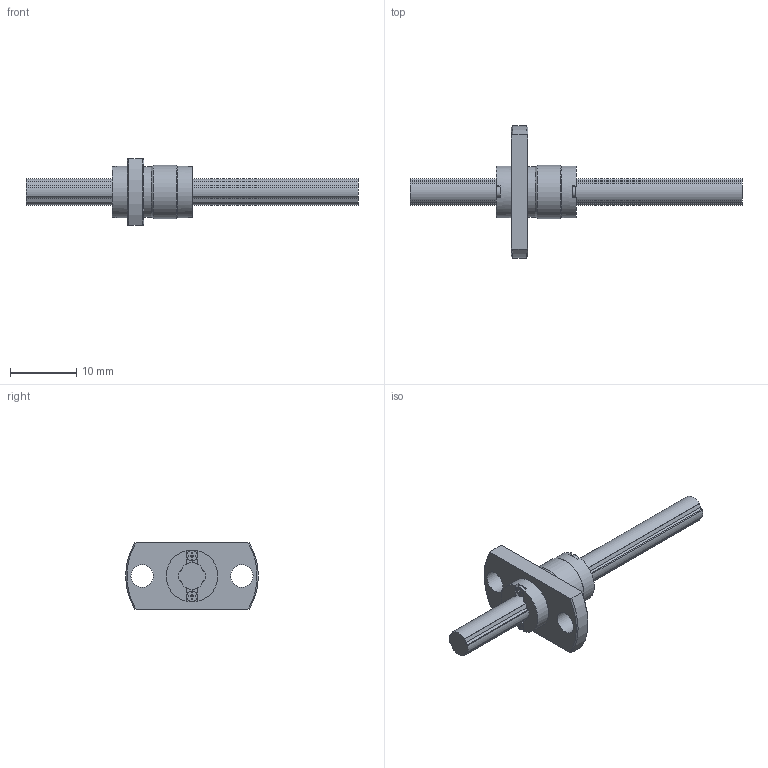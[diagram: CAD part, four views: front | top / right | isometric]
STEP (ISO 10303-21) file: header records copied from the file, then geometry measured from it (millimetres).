
FILE_DESCRIPTION(/* description */ ('STEP AP214'),/* implementation_level */ '2;1');
FILE_NAME(/* name */ 'LF4X+50L(00)',/* time_stamp */ '2024-09-05T14:40:56+02:00',/* author */ ('License CC BY-ND 4.0'),/* organization */ ('CADENAS'),/* preprocessor_version */ 'ST-DEVELOPER v19.3',/* originating_system */ 'PARTsolutions',/* authorisation */ ' ');
FILE_SCHEMA (('AUTOMOTIVE_DESIGN {1 0 10303 214 3 1 1}'));
Length unit declared in the file: millimetre
Products named in the file (3): LF4X+50L(00); 1LT4X 50Shaft; 1LF4X Cylindar
Assembly tree (2 placements, depth 2):
  LF4X+50L(00)
    1LT4X 50Shaft
    1LF4X Cylindar
Bounding box: 50 x 20 x 10 mm (x, y, z)
Volume: 1345.2 mm3; surface area: 1574.2 mm2
Topology: 2 solids, 2 shells, 136 faces, 370 edges, 246 vertices
Faces by surface type: plane 86, cylinder 44, cone 6
Full cylindrical faces by diameter (mm): 1.6 x4, 3.4 x2, 7.6 x1, 7.8 x2, 8 x1
Entity records: 4303 total; most frequent: CARTESIAN_POINT 759, DIRECTION 730, ORIENTED_EDGE 708, EDGE_CURVE 354, AXIS2_PLACEMENT_3D 245, VERTEX_POINT 242, LINE 240, VECTOR 240
